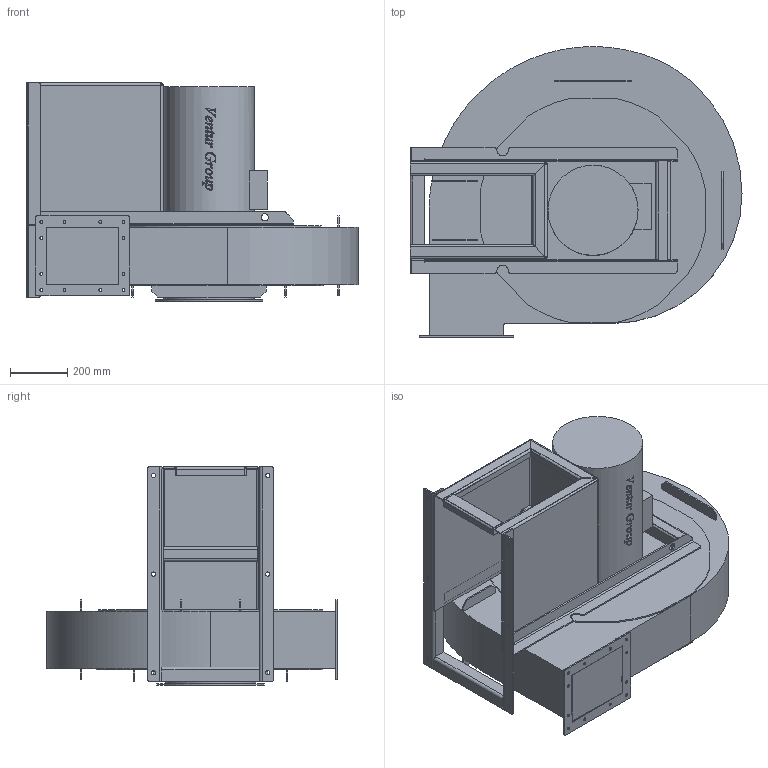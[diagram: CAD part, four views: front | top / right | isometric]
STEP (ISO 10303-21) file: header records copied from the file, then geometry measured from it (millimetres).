
FILE_DESCRIPTION(/* description */ (''),/* implementation_level */ '2;1');
FILE_NAME(/* name */ 'C:\iNVENTOR\GMT_900_1500T_LG270_43551900.stp',/* time_stamp */ '2016-06-28T10:27:44+02:00',/* author */ ('BartoszLac'),/* organization */ (''),/* preprocessor_version */ 'ST-DEVELOPER v16.5',/* originating_system */ 'Autodesk Inventor 2017',/* authorisation */ '');
FILE_SCHEMA (('AUTOMOTIVE_DESIGN { 1 0 10303 214 3 1 1 }'));
Products named in the file (1): 2 2197 112 517
Bounding box: 1161 x 1015.97 x 763 mm (x, y, z)
Volume: 229690807 mm3; surface area: 5783705.5 mm2
Topology: 1 solids, 1 shells, 1039 faces, 2907 edges, 1908 vertices
Faces by surface type: bspline 591, plane 292, cylinder 156
Full cylindrical faces by diameter (mm): 8 x8, 10.2 x12, 15 x6, 25 x2, 309 x1, 315 x2, 375 x1
Entity records: 44137 total; most frequent: CARTESIAN_POINT 20319, ORIENTED_EDGE 5754, DIRECTION 3185, EDGE_CURVE 2877, VERTEX_POINT 1908, LINE 1491, VECTOR 1491, EDGE_LOOP 1189
